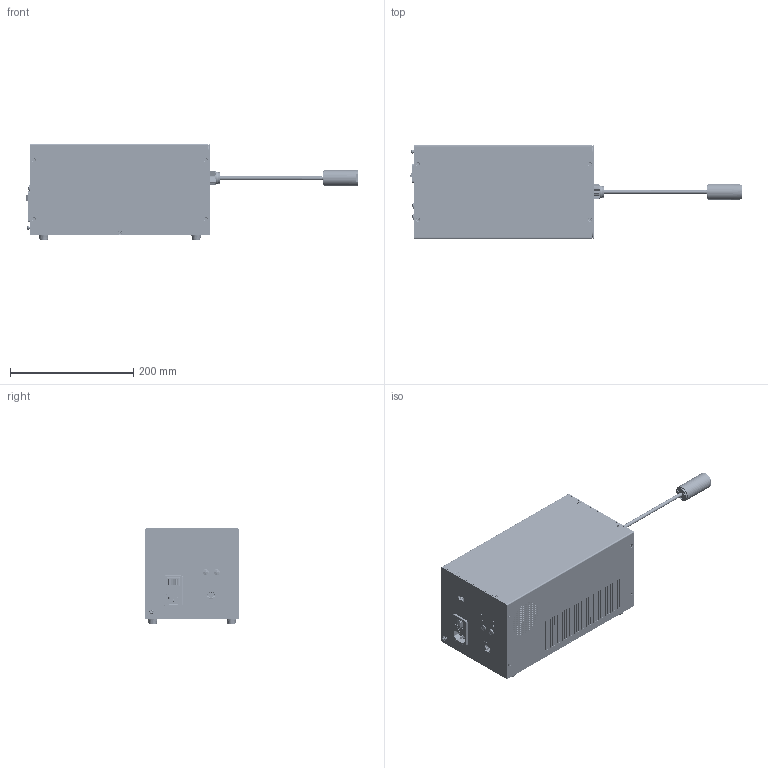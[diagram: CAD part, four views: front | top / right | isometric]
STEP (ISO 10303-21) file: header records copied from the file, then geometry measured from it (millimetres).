
FILE_DESCRIPTION((''),'2;1');
FILE_NAME('LS-LAS-808-50W-LV0','2024-04-01T17:26:23',('LumaSpec Vision'),('LumaSpec Vision'),'CREO PARAMETRIC BY PTC INC, 2020044','CREO PARAMETRIC BY PTC INC, 2020044','');
FILE_SCHEMA(('CONFIG_CONTROL_DESIGN','SHAPE_APPEARANCE_LAYERS_GROUPS'));
Products named in the file (1): PRT0013
Bounding box: 539.45 x 151.5 x 155.8 mm (x, y, z)
Volume: 6381824.3 mm3; surface area: 588360 mm2
Topology: 2 solids, 359 shells, 18208 faces, 51348 edges, 33442 vertices
Faces by surface type: plane 12540, cylinder 4205, cone 472, torus 401, bspline 327, extrusion 133, sphere 124, revolution 6
Entity records: 745196 total; most frequent: CARTESIAN_POINT 165406, ORIENTED_EDGE 99425, DIRECTION 89701, EDGE_CURVE 51175, VECTOR 37369, LINE 37236, VERTEX_POINT 33443, AXIS2_PLACEMENT_3D 26163
